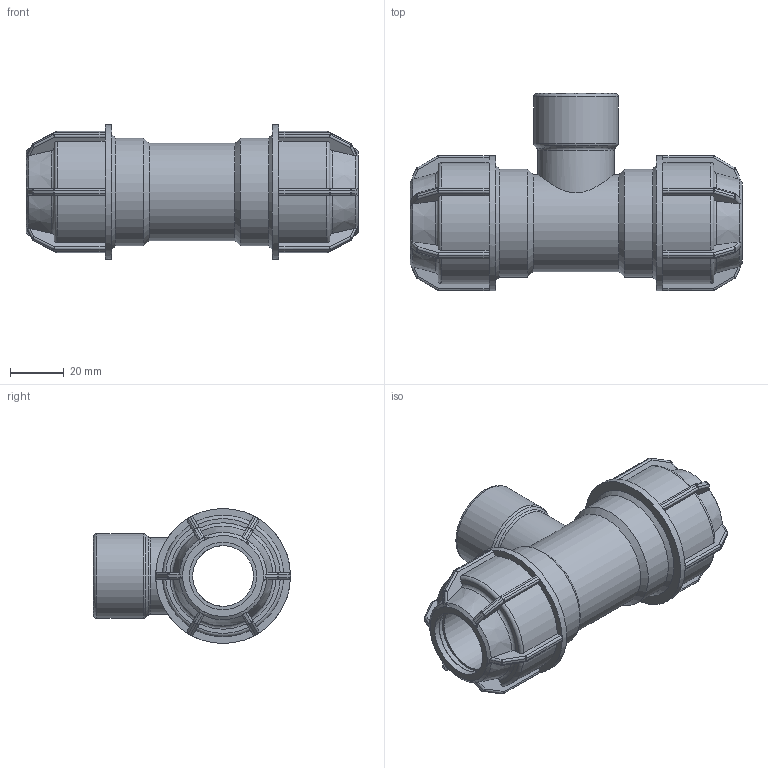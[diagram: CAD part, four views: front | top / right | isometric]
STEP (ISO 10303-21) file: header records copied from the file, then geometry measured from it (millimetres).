
FILE_DESCRIPTION(/* description */ ('PLASSON L.14 TEE FEMALE ADAPTOR (SILVER) 25 x 3/4" x 25'),/* implementation_level */ '2;1');
FILE_NAME(/* name */ 'C:\Dropbox\KIMPROJECTS-Inventor\99-16-3568-Processing\Silver Fittings\141400\141400025007.ipt.stp',/* time_stamp */ '2018-04-16T11:15:48+03:00',/* author */ ('KIM'),/* organization */ (''),/* preprocessor_version */ 'ST-DEVELOPER v15.6',/* originating_system */ 'Autodesk Inventor 2015',/* authorisation */ '');
FILE_SCHEMA (('AUTOMOTIVE_DESIGN { 1 0 10303 214 3 1 1 }'));
Length unit declared in the file: millimetre
Products named in the file (1): 141400025007
Bounding box: 123 x 73 x 50 mm (x, y, z)
Volume: 106901.3 mm3; surface area: 36028.4 mm2
Topology: 1 solids, 1 shells, 416 faces, 989 edges, 567 vertices
Faces by surface type: plane 196, cylinder 122, sphere 48, torus 31, cone 19
Full cylindrical faces by diameter (mm): 22.5 x2, 24.117 x1, 25 x4, 28.217 x1, 31.352 x1, 36 x1, 40 x2, 50 x2
Entity records: 11984 total; most frequent: CARTESIAN_POINT 3078, DIRECTION 1876, ORIENTED_EDGE 1824, EDGE_CURVE 912, AXIS2_PLACEMENT_3D 758, VERTEX_POINT 540, EDGE_LOOP 450, FACE_OUTER_BOUND 410
